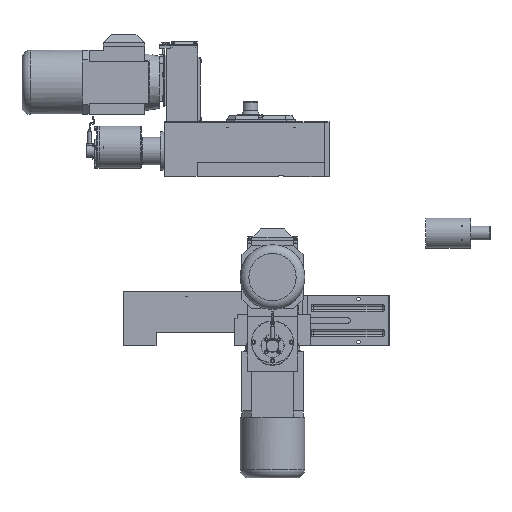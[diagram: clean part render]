
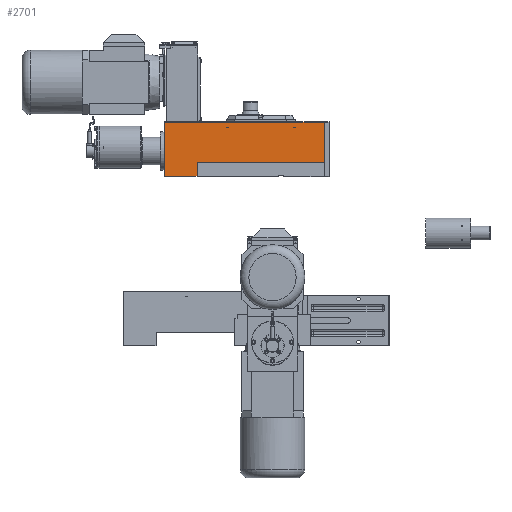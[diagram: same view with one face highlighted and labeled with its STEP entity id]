
A CAD part, front view. The second image highlights one B-rep face of the part: STEP entity #2701.
In plain terms, the highlighted planar face has unit normal (0, -1, 0).
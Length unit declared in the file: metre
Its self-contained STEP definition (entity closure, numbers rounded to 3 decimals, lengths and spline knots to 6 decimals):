
#2701 = ADVANCED_FACE( '', ( #3876 ), #3877, .T. );
#3876 = FACE_OUTER_BOUND( '', #6235, .T. );
#3877 = PLANE( '', #6236 );
#6235 = EDGE_LOOP( '', ( #9825, #9826, #9827, #9828, #9829, #9830 ) );
#6236 = AXIS2_PLACEMENT_3D( '', #9831, #9832, #9833 );
#9825 = ORIENTED_EDGE( '', *, *, #16570, .F. );
#9826 = ORIENTED_EDGE( '', *, *, #16572, .F. );
#9827 = ORIENTED_EDGE( '', *, *, #16581, .F. );
#9828 = ORIENTED_EDGE( '', *, *, #16571, .F. );
#9829 = ORIENTED_EDGE( '', *, *, #16524, .T. );
#9830 = ORIENTED_EDGE( '', *, *, #16516, .T. );
#9831 = CARTESIAN_POINT( '', ( 0.025, -0.019444, 0. ) );
#9832 = DIRECTION( '', ( 0., -1., 0. ) );
#9833 = DIRECTION( '', ( 0., 0., -1. ) );
#16516 = EDGE_CURVE( '', #18622, #18619, #18623, .T. );
#16524 = EDGE_CURVE( '', #18636, #18622, #18637, .T. );
#16570 = EDGE_CURVE( '', #18669, #18619, #18716, .T. );
#16571 = EDGE_CURVE( '', #18636, #18600, #18717, .T. );
#16572 = EDGE_CURVE( '', #18674, #18669, #18718, .T. );
#16581 = EDGE_CURVE( '', #18600, #18674, #18727, .T. );
#18600 = VERTEX_POINT( '', #22266 );
#18619 = VERTEX_POINT( '', #22292 );
#18622 = VERTEX_POINT( '', #22296 );
#18623 = LINE( '', #22297, #22298 );
#18636 = VERTEX_POINT( '', #22318 );
#18637 = LINE( '', #22319, #22320 );
#18669 = VERTEX_POINT( '', #22358 );
#18674 = VERTEX_POINT( '', #22366 );
#18716 = LINE( '', #22431, #22432 );
#18717 = LINE( '', #22433, #22434 );
#18718 = LINE( '', #22435, #22436 );
#18727 = LINE( '', #22451, #22452 );
#22266 = CARTESIAN_POINT( '', ( -0.3465, -0.019444, 0.0005 ) );
#22292 = CARTESIAN_POINT( '', ( 0.0245, -0.019444, 0.032 ) );
#22296 = CARTESIAN_POINT( '', ( -0.271, -0.019444, 0.032 ) );
#22297 = CARTESIAN_POINT( '', ( -0.049, -0.019444, 0.032 ) );
#22298 = VECTOR( '', #28619, 1. );
#22318 = CARTESIAN_POINT( '', ( -0.271, -0.019444, 0.0005 ) );
#22319 = CARTESIAN_POINT( '', ( -0.271, -0.019444, 0. ) );
#22320 = VECTOR( '', #28627, 1. );
#22358 = CARTESIAN_POINT( '', ( 0.0245, -0.019444, 0.1265 ) );
#22366 = CARTESIAN_POINT( '', ( -0.3465, -0.019444, 0.1265 ) );
#22431 = CARTESIAN_POINT( '', ( 0.0245, -0.019444, 0. ) );
#22432 = VECTOR( '', #28699, 1. );
#22433 = CARTESIAN_POINT( '', ( -0.068, -0.019444, 0.0005 ) );
#22434 = VECTOR( '', #28700, 1. );
#22435 = CARTESIAN_POINT( '', ( -0.068, -0.019444, 0.1265 ) );
#22436 = VECTOR( '', #28701, 1. );
#22451 = CARTESIAN_POINT( '', ( -0.3465, -0.019444, 0. ) );
#22452 = VECTOR( '', #28711, 1. );
#28619 = DIRECTION( '', ( 1., 0., 0. ) );
#28627 = DIRECTION( '', ( 0., 0., 1. ) );
#28699 = DIRECTION( '', ( 0., 0., -1. ) );
#28700 = DIRECTION( '', ( -1., 0., 0. ) );
#28701 = DIRECTION( '', ( 1., 0., 0. ) );
#28711 = DIRECTION( '', ( 0., 0., 1. ) );
